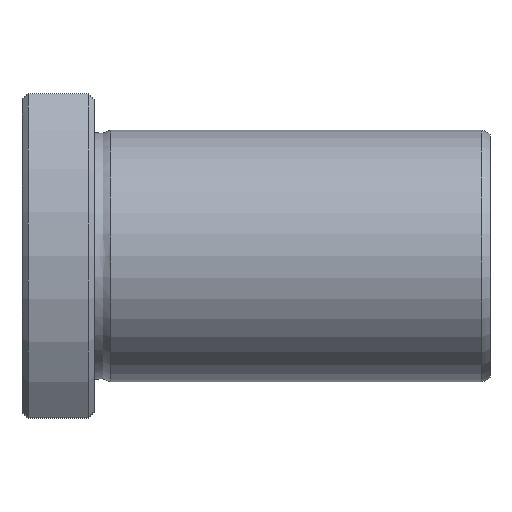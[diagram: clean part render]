
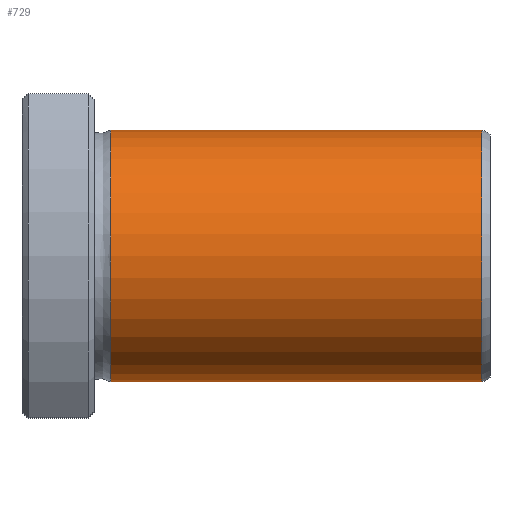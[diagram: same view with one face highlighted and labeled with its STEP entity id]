
A CAD part, top view. The second image highlights one B-rep face of the part: STEP entity #729.
In plain terms, the highlighted cylindrical face has radius 10.5 mm (diameter 21 mm), a full revolution.
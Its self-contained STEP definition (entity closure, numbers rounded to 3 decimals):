
#695=CARTESIAN_POINT('',(38.304,0.0,10.5));
#696=VERTEX_POINT('',#695);
#697=CARTESIAN_POINT('',(38.304,0.0,0.0));
#698=DIRECTION('',(-1.0,0.0,0.0));
#699=DIRECTION('',(0.0,0.0,1.0));
#700=AXIS2_PLACEMENT_3D('',#697,#698,#699);
#701=CIRCLE('',#700,10.5);
#702=EDGE_CURVE('',#696,#696,#701,.T.);
#710=CARTESIAN_POINT('',(22.852,0.0,0.0));
#711=DIRECTION('',(-1.0,0.0,0.0));
#712=DIRECTION('',(0.0,0.0,1.0));
#713=AXIS2_PLACEMENT_3D('',#710,#711,#712);
#714=CYLINDRICAL_SURFACE('',#713,10.5);
#715=CARTESIAN_POINT('',(7.4,0.0,10.5));
#716=VERTEX_POINT('',#715);
#717=CARTESIAN_POINT('',(7.4,0.0,0.0));
#718=DIRECTION('',(-1.0,0.0,0.0));
#719=DIRECTION('',(0.0,0.0,1.0));
#720=AXIS2_PLACEMENT_3D('',#717,#718,#719);
#721=CIRCLE('',#720,10.5);
#722=EDGE_CURVE('',#716,#716,#721,.T.);
#723=ORIENTED_EDGE('',*,*,#722,.F.);
#724=EDGE_LOOP('',(#723));
#725=FACE_OUTER_BOUND('',#724,.T.);
#726=ORIENTED_EDGE('',*,*,#702,.T.);
#727=EDGE_LOOP('',(#726));
#728=FACE_BOUND('',#727,.T.);
#729=ADVANCED_FACE('',(#725,#728),#714,.T.);
